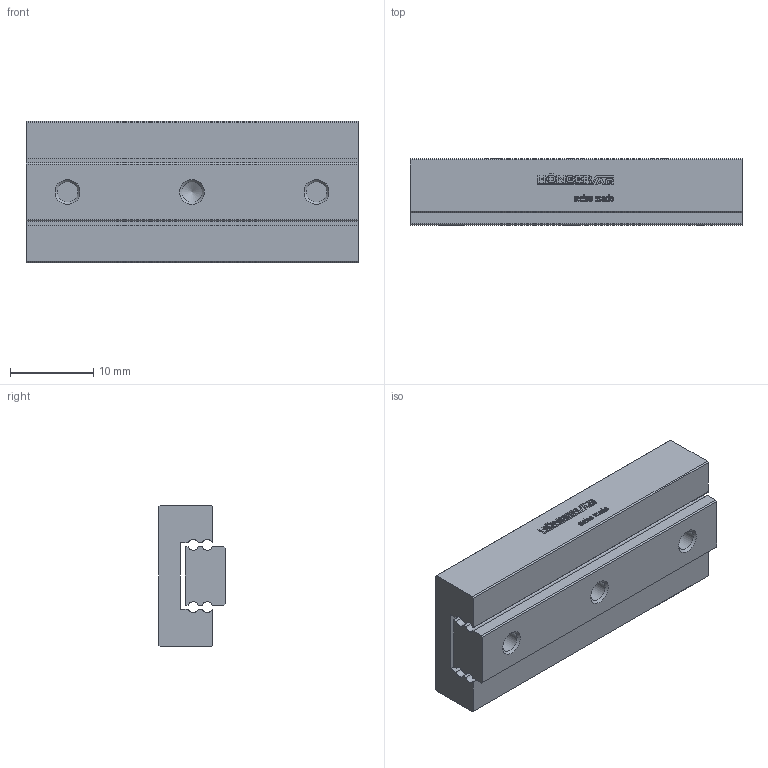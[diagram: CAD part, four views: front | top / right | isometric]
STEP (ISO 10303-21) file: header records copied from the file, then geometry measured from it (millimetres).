
FILE_DESCRIPTION(/* description */ ('STEP AP214'),/* implementation_level */ '2;1');
FILE_NAME(/* name */ 'MSK 7-40.30(0)',/* time_stamp */ '2025-04-16T16:56:59+02:00',/* author */ ('License CC BY-ND 4.0'),/* organization */ ('CADENAS'),/* preprocessor_version */ 'ST-DEVELOPER v19.3',/* originating_system */ 'PARTsolutions',/* authorisation */ ' ');
FILE_SCHEMA (('AUTOMOTIVE_DESIGN {1 0 10303 214 3 1 1}'));
Length unit declared in the file: millimetre
Products named in the file (3): MSK 7-40.30(0); MSK 7-40.30_1; MSK 7-40.30_2
Assembly tree (2 placements, depth 2):
  MSK 7-40.30(0)
    MSK 7-40.30_1
    MSK 7-40.30_2
Bounding box: 40 x 8 x 17 mm (x, y, z)
Volume: 4229.2 mm3; surface area: 3709.9 mm2
Topology: 2 solids, 2 shells, 532 faces, 1469 edges, 976 vertices
Faces by surface type: cylinder 311, plane 211, cone 10
Full cylindrical faces by diameter (mm): 1.567 x6, 2.459 x3, 4.5 x2
Entity records: 17177 total; most frequent: DIRECTION 3148, CARTESIAN_POINT 2958, ORIENTED_EDGE 2894, EDGE_CURVE 1447, AXIS2_PLACEMENT_3D 1166, VERTEX_POINT 976, LINE 816, VECTOR 816
